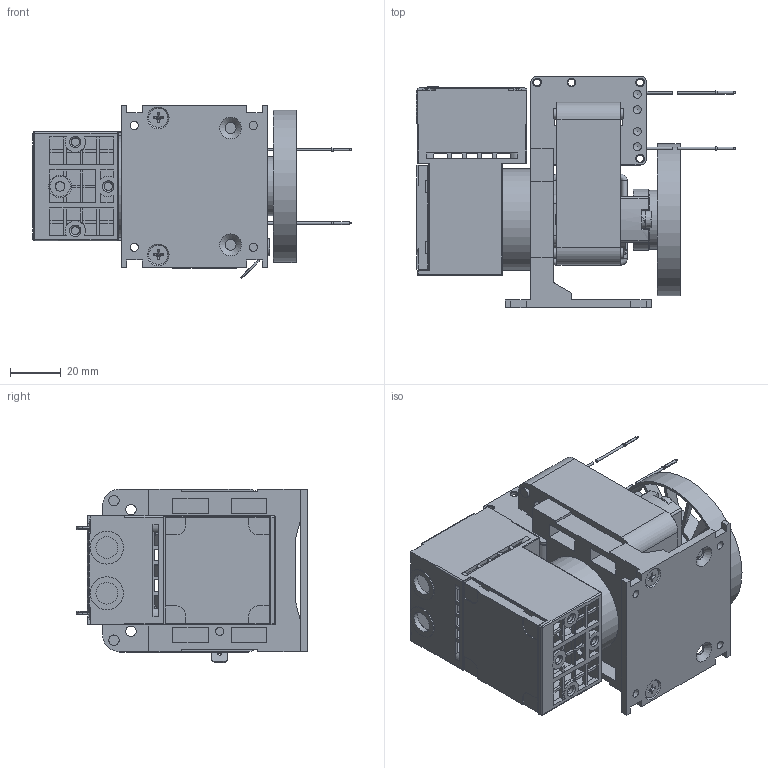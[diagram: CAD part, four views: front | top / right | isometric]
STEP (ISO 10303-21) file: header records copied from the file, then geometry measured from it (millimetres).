
FILE_DESCRIPTION(/* description */ ('Unknown'),/* implementation_level */ '2;1');
FILE_NAME(/* name */ 'JSP',/* time_stamp */ '2025-03-24T11:44:57+01:00',/* author */ ('Pataky SÃ¡ndor'),/* organization */ ('Unknown'),/* preprocessor_version */ 'ST-DEVELOPER v19.4',/* originating_system */ 'Solid Edge',/* authorisation */ 'Unknown');
FILE_SCHEMA (('AUTOMOTIVE_DESIGN {1 0 10303 214 3 1 1}'));
Length unit declared in the file: millimetre
Products named in the file (1): E_P29512_DOK-CAD_Pumpe-N86KTE_00_20201217
Bounding box: 126 x 91.25 x 68.4 mm (x, y, z)
Volume: 180713.9 mm3; surface area: 103297.5 mm2
Topology: 21 solids, 21 shells, 1688 faces, 4530 edges, 2944 vertices
Faces by surface type: plane 919, cylinder 594, torus 68, cone 61, bspline 40, sphere 6
Full cylindrical faces by diameter (mm): 0.5 x4, 0.75 x4, 1 x8, 1.05 x4, 1.4 x4, 1.65 x1, 2.2 x4, 2.5 x20, 2.8 x8, 2.85 x4, 3.1 x10, 3.2 x7, 3.24 x4, 3.3 x3, 4 x2, 4.1 x11, 4.3 x2, 5 x1, 5.5 x1, 5.7 x1, 5.9 x1, 5.95 x4, 6 x5, 7 x1, 8 x1, 8.57 x2, 11 x1, 11.5 x1, 12 x2, 13 x2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
Entity records: 63467 total; most frequent: CARTESIAN_POINT 11568, DIRECTION 8470, ORIENTED_EDGE 8210, EDGE_CURVE 4105, AXIS2_PLACEMENT_3D 3016, VERTEX_POINT 2832, LINE 2438, VECTOR 2438
